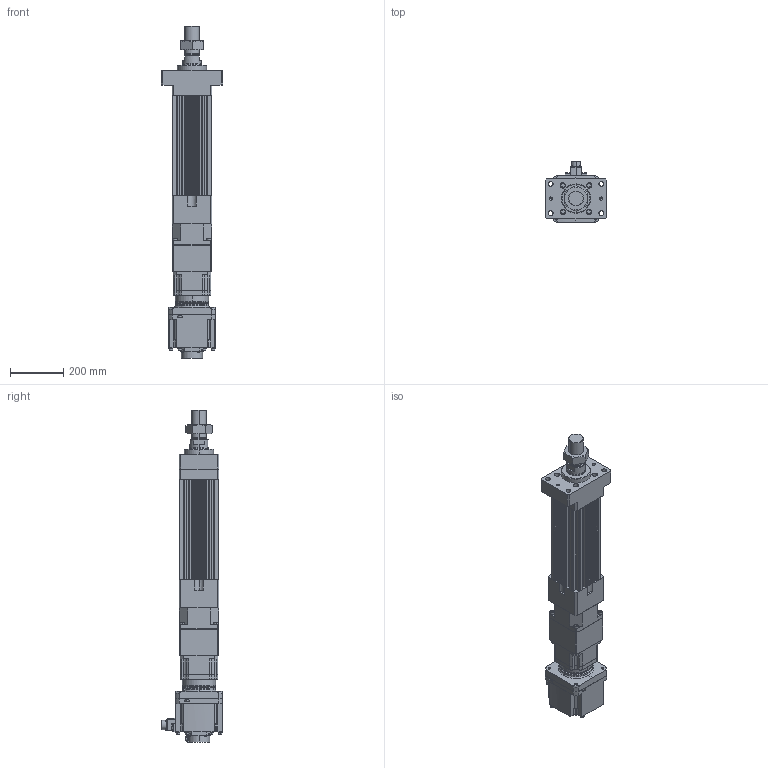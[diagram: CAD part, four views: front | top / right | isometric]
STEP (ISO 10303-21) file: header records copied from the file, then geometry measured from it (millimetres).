
FILE_DESCRIPTION (( 'STEP AP203' ), '1' );
FILE_NAME ('HES150NS(HS)-S100-W035G00-M-FM.STEP', '2023-02-01T04:15:51', ( 'tms' ), ( '' ), 'SwSTEP 2.0', 'SolidWorks 2013', '' );
FILE_SCHEMA (( 'CONFIG_CONTROL_DESIGN' ));
Length unit declared in the file: millimetre
Products named in the file (9): AB142-003[HG-SR352]; HES150-S100-G142-FM; P0403500801; M56X2.0P; HES150NS(HS)-S100-W035G00-M-FM; HES150 ROD M ST100; HG-SR352; AB1421; P1301500001
Assembly tree (8 placements, depth 3):
  HES150NS(HS)-S100-W035G00-M-FM
    HES150-S100-G142-FM
    HES150 ROD M ST100
    M56X2.0P
    AB142-003[HG-SR352]
      AB1421
      P1301500001
      P0403500801
    HG-SR352
Bounding box: 230 x 228.85 x 1247.5 mm (x, y, z)
Volume: 14578384.2 mm3; surface area: 1491887.5 mm2
Topology: 5 solids, 23 shells, 1508 faces, 3908 edges, 2538 vertices
Faces by surface type: cylinder 687, plane 587, cone 152, bspline 76, torus 6
Entity records: 55082 total; most frequent: CARTESIAN_POINT 16753, DIRECTION 8014, ORIENTED_EDGE 7718, EDGE_CURVE 3881, AXIS2_PLACEMENT_3D 3024, VERTEX_POINT 2538, VECTOR 1966, LINE 1966
